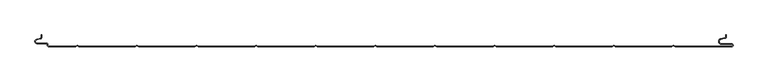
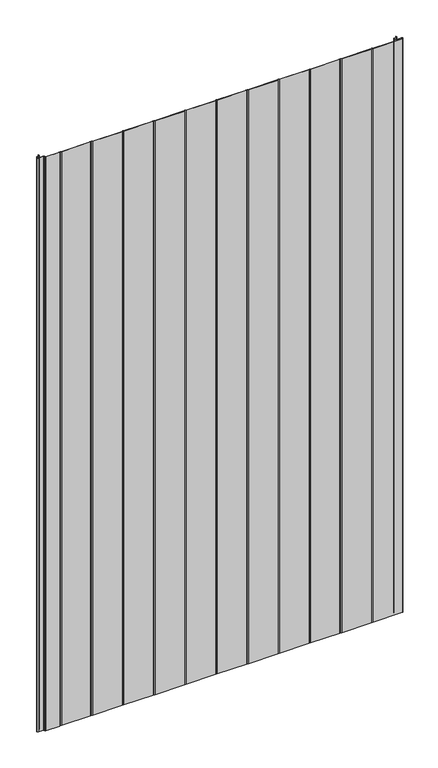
"""IFC4 building model written with IfcOpenShell, lengths in millimetres: plate geometry, PM1_Curtain-Panel_Perfil-Frigorífico : ACH_PM1_Panel-Acústico-Sectorización_120M."""

from ifc_helpers import new_model, si_unit, frame, origin, place, context, project, spatial, polyline, circle_curve, source, transform, mapped, element, save
from ifc_brep_helpers import plane_surface, cylinder_surface, revolved_surface, advanced_brep


def plate_86621088(model_context):
    return source(origin(), model_context, "Body", "AdvancedBrep", [
        advanced_brep(
        [(-575.0, -104.121443, 1945.7507136), (-576.5500978, -106.0701831, 1945.7507136), (-582.7098239, -107.492268, 1945.7507136), (-581.9, -114.6, 1945.7507136), (-566.4, -114.6, 1945.7507136), (-564.4, -116.6, 1945.7507136), (-564.4, -118.0, 1945.7507136), (-562.4, -120.0, 1945.7507136), (-517.0999995, -120.0, 1945.7507136), (-514.4, -118.4411545, 1945.7507136), (-511.7000005, -120.0, 1945.7507136), (-417.0999995, -120.0, 1945.7507136), (-414.4, -118.4411545, 1945.7507136), (-411.7000005, -120.0, 1945.7507136), (-317.0999995, -120.0, 1945.7507136), (-314.4, -118.4411545, 1945.7507136), (-311.7000005, -120.0, 1945.7507136), (-217.0999995, -120.0, 1945.7507136), (-214.4, -118.4411545, 1945.7507136), (-211.7000005, -120.0, 1945.7507136), (-117.0999995, -120.0, 1945.7507136), (-114.4, -118.4411545, 1945.7507136), (-111.7000005, -120.0, 1945.7507136), (-17.0999995, -120.0, 1945.7507136), (-14.4, -118.4411545, 1945.7507136), (-11.7000005, -120.0, 1945.7507136), (82.9000005, -120.0, 1945.7507136), (85.6, -118.4411545, 1945.7507136), (88.2999995, -120.0, 1945.7507136), (182.9000005, -120.0, 1945.7507136), (185.6, -118.4411545, 1945.7507136), (188.2999995, -120.0, 1945.7507136), (282.9000005, -120.0, 1945.7507136), (285.6, -118.4411545, 1945.7507136), (288.2999995, -120.0, 1945.7507136), (382.9000005, -120.0, 1945.7507136), (385.6, -118.4411545, 1945.7507136), (388.2999995, -120.0, 1945.7507136), (482.9000005, -120.0, 1945.7507136), (485.6, -118.4411545, 1945.7507136), (488.2999995, -120.0, 1945.7507136), (583.1, -120.0, 1945.7507136), (585.6, -117.5, 1945.7507136), (583.1, -115.0, 1945.7507136), (566.1, -115.0, 1945.7507136), (565.405407, -107.060769, 1945.7507136), (571.8514855, -105.9241509, 1945.7507136), (574.0, -103.3636508, 1945.7507136), (574.0, -100.0, 1945.7507136), (573.2, -100.0, 1945.7507136), (573.2, -103.3636508, 1945.7507136), (571.7125669, -105.1363047, 1945.7507136), (565.2664884, -106.2729228, 1945.7507136), (566.1, -115.8, 1945.7507136), (583.1, -115.8, 1945.7507136), (583.1, -119.2, 1945.7507136), (488.5143588, -119.2, 1945.7507136), (485.6, -117.517394, 1945.7507136), (482.6856412, -119.2, 1945.7507136), (388.5143588, -119.2, 1945.7507136), (385.6, -117.517394, 1945.7507136), (382.6856412, -119.2, 1945.7507136), (288.5143588, -119.2, 1945.7507136), (285.6, -117.517394, 1945.7507136), (282.6856412, -119.2, 1945.7507136), (188.5143588, -119.2, 1945.7507136), (185.6, -117.517394, 1945.7507136), (182.6856412, -119.2, 1945.7507136), (88.5143588, -119.2, 1945.7507136), (85.6, -117.517394, 1945.7507136), (82.6856412, -119.2, 1945.7507136), (-11.4856412, -119.2, 1945.7507136), (-14.4, -117.517394, 1945.7507136), (-17.3143588, -119.2, 1945.7507136), (-111.4856412, -119.2, 1945.7507136), (-114.4, -117.517394, 1945.7507136), (-117.3143588, -119.2, 1945.7507136), (-211.4856412, -119.2, 1945.7507136), (-214.4, -117.517394, 1945.7507136), (-217.3143588, -119.2, 1945.7507136), (-311.4856412, -119.2, 1945.7507136), (-314.4, -117.517394, 1945.7507136), (-317.3143588, -119.2, 1945.7507136), (-411.4856412, -119.2, 1945.7507136), (-414.4, -117.517394, 1945.7507136), (-417.3143588, -119.2, 1945.7507136), (-511.4856412, -119.2, 1945.7507136), (-514.4, -117.517394, 1945.7507136), (-517.3143588, -119.2, 1945.7507136), (-562.4, -119.2, 1945.7507136), (-563.6, -118.0, 1945.7507136), (-563.6, -116.6, 1945.7507136), (-566.4, -113.8, 1945.7507136), (-581.9, -113.8, 1945.7507136), (-582.529863, -108.2717638, 1945.7507136), (-576.370137, -106.849679, 1945.7507136), (-574.2, -104.121443, 1945.7507136), (-574.2, -100.0, 1945.7507136), (-575.0, -100.0, 1945.7507136), (-575.0, -104.121443, 0.0), (-575.0, -100.0, 0.0), (-574.2, -100.0, 0.0), (-574.2, -104.121443, 0.0), (-576.370137, -106.8496792, 0.0), (-582.529863, -108.271764, 0.0), (-581.9, -113.8, 0.0), (-566.4, -113.8, 0.0), (-563.6, -116.6, 0.0), (-563.6, -118.0, 0.0), (-562.4, -119.2, 0.0), (-517.3143588, -119.2, 0.0), (-514.4, -117.517394, 0.0), (-511.4856412, -119.2, 0.0), (-417.3143588, -119.2, 0.0), (-414.4, -117.517394, 0.0), (-411.4856412, -119.2, 0.0), (-317.3143588, -119.2, 0.0), (-314.4, -117.517394, 0.0), (-311.4856412, -119.2, 0.0), (-217.3143588, -119.2, 0.0), (-214.4, -117.517394, 0.0), (-211.4856412, -119.2, 0.0), (-117.3143588, -119.2, 0.0), (-114.4, -117.517394, 0.0), (-111.4856412, -119.2, 0.0), (-17.3143588, -119.2, 0.0), (-14.4, -117.517394, 0.0), (-11.4856412, -119.2, 0.0), (82.6856412, -119.2, 0.0), (85.6, -117.517394, 0.0), (88.5143588, -119.2, 0.0), (182.6856412, -119.2, 0.0), (185.6, -117.517394, 0.0), (188.5143588, -119.2, 0.0), (282.6856412, -119.2, 0.0), (285.6, -117.517394, 0.0), (288.5143588, -119.2, 0.0), (382.6856412, -119.2, 0.0), (385.6, -117.517394, 0.0), (388.5143588, -119.2, 0.0), (482.6856412, -119.2, 0.0), (485.6, -117.517394, 0.0), (488.5143588, -119.2, 0.0), (583.1, -119.2, 0.0), (583.1, -115.8, 0.0), (566.1, -115.8, 0.0), (565.2664884, -106.2729229, 0.0), (571.7125669, -105.1363047, 0.0), (573.2, -103.3636508, 0.0), (573.2, -100.0, 0.0), (574.0, -100.0, 0.0), (574.0, -103.3636508, 0.0), (571.8514855, -105.9241509, 0.0), (565.405407, -107.060769, 0.0), (566.1, -115.0, 0.0), (583.1, -115.0, 0.0), (585.6, -117.5, 0.0), (583.1, -120.0, 0.0), (488.2999995, -120.0, 0.0), (485.6, -118.4411545, 0.0), (482.9000005, -120.0, 0.0), (388.2999995, -120.0, 0.0), (385.6, -118.4411545, 0.0), (382.9000005, -120.0, 0.0), (288.2999995, -120.0, 0.0), (285.6, -118.4411545, 0.0), (282.9000005, -120.0, 0.0), (188.2999995, -120.0, 0.0), (185.6, -118.4411545, 0.0), (182.9000005, -120.0, 0.0), (88.2999995, -120.0, 0.0), (85.6, -118.4411545, 0.0), (82.9000005, -120.0, 0.0), (-11.7000005, -120.0, 0.0), (-14.4, -118.4411545, 0.0), (-17.0999995, -120.0, 0.0), (-111.7000005, -120.0, 0.0), (-114.4, -118.4411545, 0.0), (-117.0999995, -120.0, 0.0), (-211.7000005, -120.0, 0.0), (-214.4, -118.4411545, 0.0), (-217.0999995, -120.0, 0.0), (-311.7000005, -120.0, 0.0), (-314.4, -118.4411545, 0.0), (-317.0999995, -120.0, 0.0), (-411.7000005, -120.0, 0.0), (-414.4, -118.4411545, 0.0), (-417.0999995, -120.0, 0.0), (-511.7000005, -120.0, 0.0), (-514.4, -118.4411545, 0.0), (-517.0999995, -120.0, 0.0), (-562.4, -120.0, 0.0), (-564.4, -118.0, 0.0), (-564.4, -116.6, 0.0), (-566.4, -114.6, 0.0), (-581.9, -114.6, 0.0), (-582.7098239, -107.4922678, 0.0), (-576.5500979, -106.070183, 0.0)],
        [
            (0, 1, circle_curve(frame((-577.0, -104.121443, 1945.7507136), z_axis=(0.0, 0.0, -1.0), x_axis=(1.0, 0.0, 0.0)), 2.0)),
            (1, 2),
            (2, 3, circle_curve(frame((-581.9, -111.0, 1945.7507136), z_axis=(0.0, 0.0, 1.0), x_axis=(1.0, 0.0, 0.0)), 3.6)),
            (3, 4),
            (4, 5, circle_curve(frame((-566.4, -116.6, 1945.7507136), z_axis=(0.0, 0.0, -1.0), x_axis=(1.0, 0.0, 0.0)), 2.0)),
            (5, 6),
            (6, 7, circle_curve(frame((-562.4, -118.0, 1945.7507136), z_axis=(0.0, 0.0, 1.0), x_axis=(1.0, 0.0, 0.0)), 2.0)),
            (7, 8),
            (8, 9),
            (9, 10),
            (10, 11),
            (11, 12),
            (12, 13),
            (13, 14),
            (14, 15),
            (15, 16),
            (16, 17),
            (17, 18),
            (18, 19),
            (19, 20),
            (20, 21),
            (21, 22),
            (22, 23),
            (23, 24),
            (24, 25),
            (25, 26),
            (26, 27),
            (27, 28),
            (28, 29),
            (29, 30),
            (30, 31),
            (31, 32),
            (32, 33),
            (33, 34),
            (34, 35),
            (35, 36),
            (36, 37),
            (37, 38),
            (38, 39),
            (39, 40),
            (40, 41),
            (41, 42, circle_curve(frame((583.1, -117.5, 1945.7507136), z_axis=(0.0, 0.0, 1.0), x_axis=(1.0, 0.0, 0.0)), 2.5)),
            (42, 43, circle_curve(frame((583.1, -117.5, 1945.7507136), z_axis=(0.0, 0.0, 1.0), x_axis=(1.0, 0.0, 0.0)), 2.5)),
            (43, 44),
            (44, 45, circle_curve(frame((566.1, -111.0, 1945.7507136), z_axis=(0.0, 0.0, -1.0), x_axis=(1.0, 0.0, 0.0)), 4.0)),
            (45, 46),
            (46, 47, circle_curve(frame((571.4, -103.3636508, 1945.7507136), z_axis=(0.0, 0.0, 1.0), x_axis=(1.0, 0.0, 0.0)), 2.6)),
            (47, 48),
            (48, 49),
            (49, 50),
            (50, 51, circle_curve(frame((571.4, -103.3636508, 1945.7507136), z_axis=(0.0, 0.0, -1.0), x_axis=(1.0, 0.0, 0.0)), 1.8)),
            (51, 52),
            (52, 53, circle_curve(frame((566.1, -111.0, 1945.7507136), z_axis=(0.0, 0.0, 1.0), x_axis=(1.0, 0.0, 0.0)), 4.8)),
            (53, 54),
            (54, 55, circle_curve(frame((583.1, -117.5, 1945.7507136), z_axis=(0.0, 0.0, -1.0), x_axis=(1.0, 0.0, 0.0)), 1.7)),
            (55, 56),
            (56, 57),
            (57, 58),
            (58, 59),
            (59, 60),
            (60, 61),
            (61, 62),
            (62, 63),
            (63, 64),
            (64, 65),
            (65, 66),
            (66, 67),
            (67, 68),
            (68, 69),
            (69, 70),
            (70, 71),
            (71, 72),
            (72, 73),
            (73, 74),
            (74, 75),
            (75, 76),
            (76, 77),
            (77, 78),
            (78, 79),
            (79, 80),
            (80, 81),
            (81, 82),
            (82, 83),
            (83, 84),
            (84, 85),
            (85, 86),
            (86, 87),
            (87, 88),
            (88, 89),
            (89, 90, circle_curve(frame((-562.4, -118.0, 1945.7507136), z_axis=(0.0, 0.0, -1.0), x_axis=(1.0, 0.0, 0.0)), 1.2)),
            (90, 91),
            (91, 92, circle_curve(frame((-566.4, -116.6, 1945.7507136), z_axis=(0.0, 0.0, 1.0), x_axis=(1.0, 0.0, 0.0)), 2.8)),
            (92, 93),
            (93, 94, circle_curve(frame((-581.9, -111.0, 1945.7507136), z_axis=(0.0, 0.0, -1.0), x_axis=(1.0, 0.0, 0.0)), 2.8)),
            (94, 95),
            (95, 96, circle_curve(frame((-577.0, -104.121443, 1945.7507136), z_axis=(0.0, 0.0, 1.0), x_axis=(1.0, 0.0, 0.0)), 2.8)),
            (96, 97),
            (97, 98),
            (98, 0),
            (99, 100),
            (100, 101),
            (101, 102),
            (102, 103, circle_curve(frame((-577.0, -104.121443, 0.0), z_axis=(0.0, 0.0, -1.0), x_axis=(1.0, 0.0, 0.0)), 2.8)),
            (103, 104),
            (104, 105, circle_curve(frame((-581.9, -111.0, 0.0), z_axis=(0.0, 0.0, 1.0), x_axis=(1.0, 0.0, 0.0)), 2.8)),
            (105, 106),
            (106, 107, circle_curve(frame((-566.4, -116.6, 0.0), z_axis=(0.0, 0.0, -1.0), x_axis=(1.0, 0.0, 0.0)), 2.8)),
            (107, 108),
            (108, 109, circle_curve(frame((-562.4, -118.0, 0.0), z_axis=(0.0, 0.0, 1.0), x_axis=(1.0, 0.0, 0.0)), 1.2)),
            (109, 110),
            (110, 111),
            (111, 112),
            (112, 113),
            (113, 114),
            (114, 115),
            (115, 116),
            (116, 117),
            (117, 118),
            (118, 119),
            (119, 120),
            (120, 121),
            (121, 122),
            (122, 123),
            (123, 124),
            (124, 125),
            (125, 126),
            (126, 127),
            (127, 128),
            (128, 129),
            (129, 130),
            (130, 131),
            (131, 132),
            (132, 133),
            (133, 134),
            (134, 135),
            (135, 136),
            (136, 137),
            (137, 138),
            (138, 139),
            (139, 140),
            (140, 141),
            (141, 142),
            (142, 143),
            (143, 144, circle_curve(frame((583.1, -117.5, 0.0), z_axis=(0.0, 0.0, 1.0), x_axis=(1.0, 0.0, 0.0)), 1.7)),
            (144, 145),
            (145, 146, circle_curve(frame((566.1, -111.0, 0.0), z_axis=(0.0, 0.0, -1.0), x_axis=(1.0, 0.0, 0.0)), 4.8)),
            (146, 147),
            (147, 148, circle_curve(frame((571.4, -103.3636508, 0.0), z_axis=(0.0, 0.0, 1.0), x_axis=(1.0, 0.0, 0.0)), 1.8)),
            (148, 149),
            (149, 150),
            (150, 151),
            (151, 152, circle_curve(frame((571.4, -103.3636508, 0.0), z_axis=(0.0, 0.0, -1.0), x_axis=(1.0, 0.0, 0.0)), 2.6)),
            (152, 153),
            (153, 154, circle_curve(frame((566.1, -111.0, 0.0), z_axis=(0.0, 0.0, 1.0), x_axis=(1.0, 0.0, 0.0)), 4.0)),
            (154, 155),
            (155, 156, circle_curve(frame((583.1, -117.5, 0.0), z_axis=(0.0, 0.0, -1.0), x_axis=(1.0, 0.0, 0.0)), 2.5)),
            (156, 157, circle_curve(frame((583.1, -117.5, 0.0), z_axis=(0.0, 0.0, -1.0), x_axis=(1.0, 0.0, 0.0)), 2.5)),
            (157, 158),
            (158, 159),
            (159, 160),
            (160, 161),
            (161, 162),
            (162, 163),
            (163, 164),
            (164, 165),
            (165, 166),
            (166, 167),
            (167, 168),
            (168, 169),
            (169, 170),
            (170, 171),
            (171, 172),
            (172, 173),
            (173, 174),
            (174, 175),
            (175, 176),
            (176, 177),
            (177, 178),
            (178, 179),
            (179, 180),
            (180, 181),
            (181, 182),
            (182, 183),
            (183, 184),
            (184, 185),
            (185, 186),
            (186, 187),
            (187, 188),
            (188, 189),
            (189, 190),
            (190, 191),
            (191, 192, circle_curve(frame((-562.4, -118.0, 0.0), z_axis=(0.0, 0.0, -1.0), x_axis=(1.0, 0.0, 0.0)), 2.0)),
            (192, 193),
            (193, 194, circle_curve(frame((-566.4, -116.6, 0.0), z_axis=(0.0, 0.0, 1.0), x_axis=(1.0, 0.0, 0.0)), 2.0)),
            (194, 195),
            (195, 196, circle_curve(frame((-581.9, -111.0, 0.0), z_axis=(0.0, 0.0, -1.0), x_axis=(1.0, 0.0, 0.0)), 3.6)),
            (196, 197),
            (197, 99, circle_curve(frame((-577.0, -104.121443, 0.0), z_axis=(0.0, 0.0, 1.0), x_axis=(1.0, 0.0, 0.0)), 2.0)),
            (0, 99),
            (197, 1),
            (196, 2),
            (195, 3),
            (194, 4),
            (193, 5),
            (192, 6),
            (191, 7),
            (190, 8),
            (189, 9),
            (188, 10),
            (187, 11),
            (186, 12),
            (185, 13),
            (184, 14),
            (183, 15),
            (182, 16),
            (181, 17),
            (180, 18),
            (179, 19),
            (178, 20),
            (177, 21),
            (176, 22),
            (175, 23),
            (174, 24),
            (173, 25),
            (172, 26),
            (171, 27),
            (170, 28),
            (169, 29),
            (168, 30),
            (167, 31),
            (166, 32),
            (165, 33),
            (164, 34),
            (163, 35),
            (162, 36),
            (161, 37),
            (160, 38),
            (159, 39),
            (158, 40),
            (157, 41),
            (155, 43),
            (154, 44),
            (153, 45),
            (152, 46),
            (151, 47),
            (150, 48),
            (149, 49),
            (148, 50),
            (147, 51),
            (146, 52),
            (145, 53),
            (144, 54),
            (143, 55),
            (142, 56),
            (141, 57),
            (140, 58),
            (139, 59),
            (138, 60),
            (137, 61),
            (136, 62),
            (135, 63),
            (134, 64),
            (133, 65),
            (132, 66),
            (131, 67),
            (130, 68),
            (129, 69),
            (128, 70),
            (127, 71),
            (126, 72),
            (125, 73),
            (124, 74),
            (123, 75),
            (122, 76),
            (121, 77),
            (120, 78),
            (119, 79),
            (118, 80),
            (117, 81),
            (116, 82),
            (115, 83),
            (114, 84),
            (113, 85),
            (112, 86),
            (111, 87),
            (110, 88),
            (109, 89),
            (108, 90),
            (107, 91),
            (106, 92),
            (105, 93),
            (104, 94),
            (103, 95),
            (102, 96),
            (101, 97),
            (100, 98),
        ],
        [
            plane_surface(frame((-575.0, -120.0, 1945.7507136), z_axis=(0.0, 0.0, 1.0), x_axis=(0.0, 1.0, 0.0))),
            plane_surface(frame((-575.0, -120.0, 0.0), z_axis=(0.0, 0.0, -1.0), x_axis=(0.0, 1.0, 0.0))),
            revolved_surface(polyline([(-575.0, -104.121443, 0.0), (-575.0, -104.121443, 1945.7507136)]), (-577.0, -104.121443, 1945.7507136), (0.0, 0.0, -1.0)),
            plane_surface(frame((-576.5500979, -106.070183, 1945.7507136), z_axis=(-0.22495108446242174, 0.9743700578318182, 0.0), x_axis=(0.0, 0.0, -1.0))),
            cylinder_surface(frame((-581.9, -111.0, 1945.7507136), z_axis=(0.0, 0.0, 1.0), x_axis=(1.0, 0.0, 0.0)), 3.6),
            plane_surface(frame((-581.9, -114.6, 1945.7507136), z_axis=(0.0, -1.0, 0.0), x_axis=(0.0, 0.0, -1.0))),
            revolved_surface(polyline([(-564.4, -116.6, 0.0), (-564.4, -116.6, 1945.7507136)]), (-566.4, -116.6, 1945.7507136), (0.0, 0.0, -1.0)),
            plane_surface(frame((-564.4, -116.6, 1945.7507136), z_axis=(-1.0, 0.0, 0.0), x_axis=(0.0, 0.0, -1.0))),
            cylinder_surface(frame((-562.4, -118.0, 1945.7507136), z_axis=(0.0, 0.0, 1.0), x_axis=(1.0, 0.0, 0.0)), 2.0),
            plane_surface(frame((-562.4, -120.0, 1945.7507136), z_axis=(0.0, -1.0, 0.0), x_axis=(0.0, 0.0, -1.0))),
            plane_surface(frame((-517.0999995, -120.0, 1945.7507136), z_axis=(0.5000000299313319, -0.8660253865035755, 0.0), x_axis=(0.0, 0.0, -1.0))),
            plane_surface(frame((-514.4, -118.4411545, 1945.7507136), z_axis=(-0.5000000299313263, -0.8660253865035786, 0.0), x_axis=(0.0, 0.0, -1.0))),
            plane_surface(frame((-511.7000005, -120.0, 1945.7507136), z_axis=(0.0, -1.0, 0.0), x_axis=(0.0, 0.0, -1.0))),
            plane_surface(frame((-417.0999995, -120.0, 1945.7507136), z_axis=(0.5000000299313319, -0.8660253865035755, 0.0), x_axis=(0.0, 0.0, -1.0))),
            plane_surface(frame((-414.4, -118.4411545, 1945.7507136), z_axis=(-0.5000000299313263, -0.8660253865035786, 0.0), x_axis=(0.0, 0.0, -1.0))),
            plane_surface(frame((-411.7000005, -120.0, 1945.7507136), z_axis=(0.0, -1.0, 0.0), x_axis=(0.0, 0.0, -1.0))),
            plane_surface(frame((-317.0999995, -120.0, 1945.7507136), z_axis=(0.5000000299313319, -0.8660253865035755, 0.0), x_axis=(0.0, 0.0, -1.0))),
            plane_surface(frame((-314.4, -118.4411545, 1945.7507136), z_axis=(-0.5000000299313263, -0.8660253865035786, 0.0), x_axis=(0.0, 0.0, -1.0))),
            plane_surface(frame((-311.7000005, -120.0, 1945.7507136), z_axis=(0.0, -1.0, 0.0), x_axis=(0.0, 0.0, -1.0))),
            plane_surface(frame((-217.0999995, -120.0, 1945.7507136), z_axis=(0.5000000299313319, -0.8660253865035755, 0.0), x_axis=(0.0, 0.0, -1.0))),
            plane_surface(frame((-214.4, -118.4411545, 1945.7507136), z_axis=(-0.5000000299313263, -0.8660253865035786, 0.0), x_axis=(0.0, 0.0, -1.0))),
            plane_surface(frame((-211.7000005, -120.0, 1945.7507136), z_axis=(0.0, -1.0, 0.0), x_axis=(0.0, 0.0, -1.0))),
            plane_surface(frame((-117.0999995, -120.0, 1945.7507136), z_axis=(0.5000000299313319, -0.8660253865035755, 0.0), x_axis=(0.0, 0.0, -1.0))),
            plane_surface(frame((-114.4, -118.4411545, 1945.7507136), z_axis=(-0.5000000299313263, -0.8660253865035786, 0.0), x_axis=(0.0, 0.0, -1.0))),
            plane_surface(frame((-111.7000005, -120.0, 1945.7507136), z_axis=(0.0, -1.0, 0.0), x_axis=(0.0, 0.0, -1.0))),
            plane_surface(frame((-17.0999995, -120.0, 1945.7507136), z_axis=(0.5000000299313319, -0.8660253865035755, 0.0), x_axis=(0.0, 0.0, -1.0))),
            plane_surface(frame((-14.4, -118.4411545, 1945.7507136), z_axis=(-0.5000000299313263, -0.8660253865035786, 0.0), x_axis=(0.0, 0.0, -1.0))),
            plane_surface(frame((-11.7000005, -120.0, 1945.7507136), z_axis=(0.0, -1.0, 0.0), x_axis=(0.0, 0.0, -1.0))),
            plane_surface(frame((82.9000005, -120.0, 1945.7507136), z_axis=(0.5000000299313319, -0.8660253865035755, 0.0), x_axis=(0.0, 0.0, -1.0))),
            plane_surface(frame((85.6, -118.4411545, 1945.7507136), z_axis=(-0.5000000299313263, -0.8660253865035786, 0.0), x_axis=(0.0, 0.0, -1.0))),
            plane_surface(frame((88.2999995, -120.0, 1945.7507136), z_axis=(0.0, -1.0, 0.0), x_axis=(0.0, 0.0, -1.0))),
            plane_surface(frame((182.9000005, -120.0, 1945.7507136), z_axis=(0.5000000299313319, -0.8660253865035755, 0.0), x_axis=(0.0, 0.0, -1.0))),
            plane_surface(frame((185.6, -118.4411545, 1945.7507136), z_axis=(-0.5000000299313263, -0.8660253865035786, 0.0), x_axis=(0.0, 0.0, -1.0))),
            plane_surface(frame((188.2999995, -120.0, 1945.7507136), z_axis=(0.0, -1.0, 0.0), x_axis=(0.0, 0.0, -1.0))),
            plane_surface(frame((282.9000005, -120.0, 1945.7507136), z_axis=(0.5000000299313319, -0.8660253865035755, 0.0), x_axis=(0.0, 0.0, -1.0))),
            plane_surface(frame((285.6, -118.4411545, 1945.7507136), z_axis=(-0.5000000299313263, -0.8660253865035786, 0.0), x_axis=(0.0, 0.0, -1.0))),
            plane_surface(frame((288.2999995, -120.0, 1945.7507136), z_axis=(0.0, -1.0, 0.0), x_axis=(0.0, 0.0, -1.0))),
            plane_surface(frame((382.9000005, -120.0, 1945.7507136), z_axis=(0.5000000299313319, -0.8660253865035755, 0.0), x_axis=(0.0, 0.0, -1.0))),
            plane_surface(frame((385.6, -118.4411545, 1945.7507136), z_axis=(-0.5000000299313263, -0.8660253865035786, 0.0), x_axis=(0.0, 0.0, -1.0))),
            plane_surface(frame((388.2999995, -120.0, 1945.7507136), z_axis=(0.0, -1.0, 0.0), x_axis=(0.0, 0.0, -1.0))),
            plane_surface(frame((482.9000005, -120.0, 1945.7507136), z_axis=(0.5000000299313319, -0.8660253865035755, 0.0), x_axis=(0.0, 0.0, -1.0))),
            plane_surface(frame((485.6, -118.4411545, 1945.7507136), z_axis=(-0.5000000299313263, -0.8660253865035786, 0.0), x_axis=(0.0, 0.0, -1.0))),
            plane_surface(frame((535.6, -120.0, 1945.7507136), z_axis=(0.0, -1.0, 0.0), x_axis=(0.0, 0.0, -1.0))),
            cylinder_surface(frame((583.1, -117.5, 1945.7507136), z_axis=(0.0, 0.0, 1.0), x_axis=(1.0, 0.0, 0.0)), 2.5),
            plane_surface(frame((583.1, -115.0, 1945.7507136), z_axis=(0.0, 1.0, 0.0), x_axis=(0.0, 0.0, -1.0))),
            revolved_surface(polyline([(570.1, -111.0, 0.0), (570.1, -111.0, 1945.7507136)]), (566.1, -111.0, 1945.7507136), (0.0, 0.0, -1.0)),
            plane_surface(frame((565.405407, -107.060769, 1945.7507136), z_axis=(0.17364825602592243, -0.9848077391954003, 0.0), x_axis=(0.0, 0.0, -1.0))),
            cylinder_surface(frame((571.4, -103.3636508, 1945.7507136), z_axis=(0.0, 0.0, 1.0), x_axis=(1.0, 0.0, 0.0)), 2.6),
            plane_surface(frame((574.0, -103.3636508, 1945.7507136), z_axis=(1.0, 0.0, 0.0), x_axis=(0.0, 0.0, -1.0))),
            plane_surface(frame((574.0, -100.0, 1945.7507136), z_axis=(0.0, 1.0, 0.0), x_axis=(0.0, 0.0, -1.0))),
            plane_surface(frame((573.2, -100.0, 1945.7507136), z_axis=(-1.0, 0.0, 0.0), x_axis=(0.0, 0.0, -1.0))),
            revolved_surface(polyline([(573.1999999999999, -103.3636508, 0.0), (573.1999999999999, -103.3636508, 1945.7507136)]), (571.4, -103.3636508, 1945.7507136), (0.0, 0.0, -1.0)),
            plane_surface(frame((571.7125669, -105.1363047, 1945.7507136), z_axis=(-0.17364825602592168, 0.9848077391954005, 0.0), x_axis=(0.0, 0.0, -1.0))),
            cylinder_surface(frame((566.1, -111.0, 1945.7507136), z_axis=(0.0, 0.0, 1.0), x_axis=(1.0, 0.0, 0.0)), 4.8),
            plane_surface(frame((566.1, -115.8, 1945.7507136), z_axis=(0.0, -1.0, 0.0), x_axis=(0.0, 0.0, -1.0))),
            revolved_surface(polyline([(584.8000000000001, -117.5, 0.0), (584.8000000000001, -117.5, 1945.7507136)]), (583.1, -117.5, 1945.7507136), (0.0, 0.0, -1.0)),
            plane_surface(frame((535.6, -119.2, 1945.7507136), z_axis=(0.0, 1.0, 0.0), x_axis=(0.0, 0.0, -1.0))),
            plane_surface(frame((488.5143588, -119.2, 1945.7507136), z_axis=(0.5000000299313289, 0.8660253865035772, 0.0), x_axis=(0.0, 0.0, -1.0))),
            plane_surface(frame((485.6, -117.517394, 1945.7507136), z_axis=(-0.5000000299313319, 0.8660253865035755, 0.0), x_axis=(0.0, 0.0, -1.0))),
            plane_surface(frame((482.6856412, -119.2, 1945.7507136), z_axis=(0.0, 1.0, 0.0), x_axis=(0.0, 0.0, -1.0))),
            plane_surface(frame((388.5143588, -119.2, 1945.7507136), z_axis=(0.5000000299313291, 0.8660253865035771, 0.0), x_axis=(0.0, 0.0, -1.0))),
            plane_surface(frame((385.6, -117.517394, 1945.7507136), z_axis=(-0.500000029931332, 0.8660253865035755, 0.0), x_axis=(0.0, 0.0, -1.0))),
            plane_surface(frame((382.6856412, -119.2, 1945.7507136), z_axis=(0.0, 1.0, 0.0), x_axis=(0.0, 0.0, -1.0))),
            plane_surface(frame((288.5143588, -119.2, 1945.7507136), z_axis=(0.5000000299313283, 0.8660253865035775, 0.0), x_axis=(0.0, 0.0, -1.0))),
            plane_surface(frame((285.6, -117.517394, 1945.7507136), z_axis=(-0.5000000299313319, 0.8660253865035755, 0.0), x_axis=(0.0, 0.0, -1.0))),
            plane_surface(frame((282.6856412, -119.2, 1945.7507136), z_axis=(0.0, 1.0, 0.0), x_axis=(0.0, 0.0, -1.0))),
            plane_surface(frame((188.5143588, -119.2, 1945.7507136), z_axis=(0.5000000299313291, 0.8660253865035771, 0.0), x_axis=(0.0, 0.0, -1.0))),
            plane_surface(frame((185.6, -117.517394, 1945.7507136), z_axis=(-0.5000000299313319, 0.8660253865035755, 0.0), x_axis=(0.0, 0.0, -1.0))),
            plane_surface(frame((182.6856412, -119.2, 1945.7507136), z_axis=(0.0, 1.0, 0.0), x_axis=(0.0, 0.0, -1.0))),
            plane_surface(frame((88.5143588, -119.2, 1945.7507136), z_axis=(0.5000000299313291, 0.8660253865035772, 0.0), x_axis=(0.0, 0.0, -1.0))),
            plane_surface(frame((85.6, -117.517394, 1945.7507136), z_axis=(-0.5000000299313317, 0.8660253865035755, 0.0), x_axis=(0.0, 0.0, -1.0))),
            plane_surface(frame((82.6856412, -119.2, 1945.7507136), z_axis=(0.0, 1.0, 0.0), x_axis=(0.0, 0.0, -1.0))),
            plane_surface(frame((-11.4856412, -119.2, 1945.7507136), z_axis=(0.500000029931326, 0.8660253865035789, 0.0), x_axis=(0.0, 0.0, -1.0))),
            plane_surface(frame((-14.4, -117.517394, 1945.7507136), z_axis=(-0.500000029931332, 0.8660253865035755, 0.0), x_axis=(0.0, 0.0, -1.0))),
            plane_surface(frame((-17.3143588, -119.2, 1945.7507136), z_axis=(0.0, 1.0, 0.0), x_axis=(0.0, 0.0, -1.0))),
            plane_surface(frame((-111.4856412, -119.2, 1945.7507136), z_axis=(0.5000000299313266, 0.8660253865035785, 0.0), x_axis=(0.0, 0.0, -1.0))),
            plane_surface(frame((-114.4, -117.517394, 1945.7507136), z_axis=(-0.5000000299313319, 0.8660253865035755, 0.0), x_axis=(0.0, 0.0, -1.0))),
            plane_surface(frame((-117.3143588, -119.2, 1945.7507136), z_axis=(0.0, 1.0, 0.0), x_axis=(0.0, 0.0, -1.0))),
            plane_surface(frame((-211.4856412, -119.2, 1945.7507136), z_axis=(0.5000000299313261, 0.8660253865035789, 0.0), x_axis=(0.0, 0.0, -1.0))),
            plane_surface(frame((-214.4, -117.517394, 1945.7507136), z_axis=(-0.500000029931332, 0.8660253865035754, 0.0), x_axis=(0.0, 0.0, -1.0))),
            plane_surface(frame((-217.3143588, -119.2, 1945.7507136), z_axis=(0.0, 1.0, 0.0), x_axis=(0.0, 0.0, -1.0))),
            plane_surface(frame((-311.4856412, -119.2, 1945.7507136), z_axis=(0.5000000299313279, 0.8660253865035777, 0.0), x_axis=(0.0, 0.0, -1.0))),
            plane_surface(frame((-314.4, -117.517394, 1945.7507136), z_axis=(-0.5000000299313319, 0.8660253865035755, 0.0), x_axis=(0.0, 0.0, -1.0))),
            plane_surface(frame((-317.3143588, -119.2, 1945.7507136), z_axis=(0.0, 1.0, 0.0), x_axis=(0.0, 0.0, -1.0))),
            plane_surface(frame((-411.4856412, -119.2, 1945.7507136), z_axis=(0.5000000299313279, 0.8660253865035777, 0.0), x_axis=(0.0, 0.0, -1.0))),
            plane_surface(frame((-414.4, -117.517394, 1945.7507136), z_axis=(-0.5000000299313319, 0.8660253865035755, 0.0), x_axis=(0.0, 0.0, -1.0))),
            plane_surface(frame((-417.3143588, -119.2, 1945.7507136), z_axis=(0.0, 1.0, 0.0), x_axis=(0.0, 0.0, -1.0))),
            plane_surface(frame((-511.4856412, -119.2, 1945.7507136), z_axis=(0.5000000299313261, 0.8660253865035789, 0.0), x_axis=(0.0, 0.0, -1.0))),
            plane_surface(frame((-514.4, -117.517394, 1945.7507136), z_axis=(-0.5000000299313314, 0.8660253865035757, 0.0), x_axis=(0.0, 0.0, -1.0))),
            plane_surface(frame((-517.3143588, -119.2, 1945.7507136), z_axis=(0.0, 1.0, 0.0), x_axis=(0.0, 0.0, -1.0))),
            revolved_surface(polyline([(-561.1999999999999, -118.0, 0.0), (-561.1999999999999, -118.0, 1945.7507136)]), (-562.4, -118.0, 1945.7507136), (0.0, 0.0, -1.0)),
            plane_surface(frame((-563.6, -118.0, 1945.7507136), z_axis=(1.0, 0.0, 0.0), x_axis=(0.0, 0.0, -1.0))),
            cylinder_surface(frame((-566.4, -116.6, 1945.7507136), z_axis=(0.0, 0.0, 1.0), x_axis=(1.0, 0.0, 0.0)), 2.8),
            plane_surface(frame((-566.4, -113.8, 1945.7507136), z_axis=(0.0, 1.0, 0.0), x_axis=(0.0, 0.0, -1.0))),
            revolved_surface(polyline([(-579.1, -111.0, 0.0), (-579.1, -111.0, 1945.7507136)]), (-581.9, -111.0, 1945.7507136), (0.0, 0.0, -1.0)),
            plane_surface(frame((-582.529863, -108.271764, 1945.7507136), z_axis=(0.22495108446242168, -0.9743700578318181, 0.0), x_axis=(0.0, 0.0, -1.0))),
            cylinder_surface(frame((-577.0, -104.121443, 1945.7507136), z_axis=(0.0, 0.0, 1.0), x_axis=(1.0, 0.0, 0.0)), 2.8),
            plane_surface(frame((-574.2, -104.121443, 1945.7507136), z_axis=(1.0, 0.0, 0.0), x_axis=(0.0, 0.0, -1.0))),
            plane_surface(frame((-574.2, -100.0, 1945.7507136), z_axis=(0.0, 1.0, 0.0), x_axis=(0.0, 0.0, -1.0))),
            plane_surface(frame((-575.0, -100.0, 1945.7507136), z_axis=(-1.0, 0.0, 0.0), x_axis=(0.0, 0.0, -1.0))),
        ],
        [
            (0, [[1, 2, 3, 4, 5, 6, 7, 8, 9, 10, 11, 12, 13, 14, 15, 16, 17, 18, 19, 20, 21, 22, 23, 24, 25, 26, 27, 28, 29, 30, 31, 32, 33, 34, 35, 36, 37, 38, 39, 40, 41, 42, 43, 44, 45, 46, 47, 48, 49, 50, 51, 52, 53, 54, 55, 56, 57, 58, 59, 60, 61, 62, 63, 64, 65, 66, 67, 68, 69, 70, 71, 72, 73, 74, 75, 76, 77, 78, 79, 80, 81, 82, 83, 84, 85, 86, 87, 88, 89, 90, 91, 92, 93, 94, 95, 96, 97, 98, 99]]),
            (1, [[100, 101, 102, 103, 104, 105, 106, 107, 108, 109, 110, 111, 112, 113, 114, 115, 116, 117, 118, 119, 120, 121, 122, 123, 124, 125, 126, 127, 128, 129, 130, 131, 132, 133, 134, 135, 136, 137, 138, 139, 140, 141, 142, 143, 144, 145, 146, 147, 148, 149, 150, 151, 152, 153, 154, 155, 156, 157, 158, 159, 160, 161, 162, 163, 164, 165, 166, 167, 168, 169, 170, 171, 172, 173, 174, 175, 176, 177, 178, 179, 180, 181, 182, 183, 184, 185, 186, 187, 188, 189, 190, 191, 192, 193, 194, 195, 196, 197, 198]]),
            (2, [[-1, 199, -198, 200]]),
            (3, [[-2, -200, -197, 201]]),
            (4, [[-3, -201, -196, 202]]),
            (5, [[-4, -202, -195, 203]]),
            (6, [[-5, -203, -194, 204]]),
            (7, [[-6, -204, -193, 205]]),
            (8, [[-7, -205, -192, 206]]),
            (9, [[-8, -206, -191, 207]]),
            (10, [[-9, -207, -190, 208]]),
            (11, [[-10, -208, -189, 209]]),
            (12, [[-11, -209, -188, 210]]),
            (13, [[-12, -210, -187, 211]]),
            (14, [[-13, -211, -186, 212]]),
            (15, [[-14, -212, -185, 213]]),
            (16, [[-15, -213, -184, 214]]),
            (17, [[-16, -214, -183, 215]]),
            (18, [[-17, -215, -182, 216]]),
            (19, [[-18, -216, -181, 217]]),
            (20, [[-19, -217, -180, 218]]),
            (21, [[-20, -218, -179, 219]]),
            (22, [[-21, -219, -178, 220]]),
            (23, [[-22, -220, -177, 221]]),
            (24, [[-23, -221, -176, 222]]),
            (25, [[-24, -222, -175, 223]]),
            (26, [[-25, -223, -174, 224]]),
            (27, [[-26, -224, -173, 225]]),
            (28, [[-27, -225, -172, 226]]),
            (29, [[-28, -226, -171, 227]]),
            (30, [[-29, -227, -170, 228]]),
            (31, [[-30, -228, -169, 229]]),
            (32, [[-31, -229, -168, 230]]),
            (33, [[-32, -230, -167, 231]]),
            (34, [[-33, -231, -166, 232]]),
            (35, [[-34, -232, -165, 233]]),
            (36, [[-35, -233, -164, 234]]),
            (37, [[-36, -234, -163, 235]]),
            (38, [[-37, -235, -162, 236]]),
            (39, [[-38, -236, -161, 237]]),
            (40, [[-39, -237, -160, 238]]),
            (41, [[-40, -238, -159, 239]]),
            (42, [[-41, -239, -158, 240]]),
            (43, [[-240, -157, -156, 241, -43, -42]]),
            (44, [[-44, -241, -155, 242]]),
            (45, [[-45, -242, -154, 243]]),
            (46, [[-46, -243, -153, 244]]),
            (47, [[-47, -244, -152, 245]]),
            (48, [[-48, -245, -151, 246]]),
            (49, [[-49, -246, -150, 247]]),
            (50, [[-50, -247, -149, 248]]),
            (51, [[-51, -248, -148, 249]]),
            (52, [[-52, -249, -147, 250]]),
            (53, [[-53, -250, -146, 251]]),
            (54, [[-54, -251, -145, 252]]),
            (55, [[-55, -252, -144, 253]]),
            (56, [[-56, -253, -143, 254]]),
            (57, [[-57, -254, -142, 255]]),
            (58, [[-58, -255, -141, 256]]),
            (59, [[-59, -256, -140, 257]]),
            (60, [[-60, -257, -139, 258]]),
            (61, [[-61, -258, -138, 259]]),
            (62, [[-62, -259, -137, 260]]),
            (63, [[-63, -260, -136, 261]]),
            (64, [[-64, -261, -135, 262]]),
            (65, [[-65, -262, -134, 263]]),
            (66, [[-66, -263, -133, 264]]),
            (67, [[-67, -264, -132, 265]]),
            (68, [[-68, -265, -131, 266]]),
            (69, [[-69, -266, -130, 267]]),
            (70, [[-70, -267, -129, 268]]),
            (71, [[-71, -268, -128, 269]]),
            (72, [[-72, -269, -127, 270]]),
            (73, [[-73, -270, -126, 271]]),
            (74, [[-74, -271, -125, 272]]),
            (75, [[-75, -272, -124, 273]]),
            (76, [[-76, -273, -123, 274]]),
            (77, [[-77, -274, -122, 275]]),
            (78, [[-78, -275, -121, 276]]),
            (79, [[-79, -276, -120, 277]]),
            (80, [[-80, -277, -119, 278]]),
            (81, [[-81, -278, -118, 279]]),
            (82, [[-82, -279, -117, 280]]),
            (83, [[-83, -280, -116, 281]]),
            (84, [[-84, -281, -115, 282]]),
            (85, [[-85, -282, -114, 283]]),
            (86, [[-86, -283, -113, 284]]),
            (87, [[-87, -284, -112, 285]]),
            (88, [[-88, -285, -111, 286]]),
            (89, [[-89, -286, -110, 287]]),
            (90, [[-90, -287, -109, 288]]),
            (91, [[-91, -288, -108, 289]]),
            (92, [[-92, -289, -107, 290]]),
            (93, [[-93, -290, -106, 291]]),
            (94, [[-94, -291, -105, 292]]),
            (95, [[-95, -292, -104, 293]]),
            (96, [[-96, -293, -103, 294]]),
            (97, [[-97, -294, -102, 295]]),
            (98, [[-98, -295, -101, 296]]),
            (99, [[-99, -296, -100, -199]]),
        ],
    ),
    ])


if __name__ == "__main__":
    model = new_model("IFC4")
    model_context = context("Model", 3, world=origin())
    ifc_project = project(units=[si_unit("LENGTHUNIT", "METRE", prefix="MILLI")], contexts=[model_context])
    site = spatial("IfcSite", under=ifc_project)
    building = spatial("IfcBuilding", under=site)
    placement = place(None, origin())
    plate_shape = plate_86621088(model_context)
    element("IfcPlate", 1, ObjectType="PM1_Curtain-Panel_Perfil-Frigorífico : ACH_PM1_Panel-Acústico-Sectorización_120M", at=placement, inside=building, context=model_context, shape_type="MappedRepresentation", body=[
        mapped(plate_shape, transform((0.0, 0.0, 0.0), x_axis=(1.0, 0.0, 0.0), y_axis=(0.0, 1.0, 0.0), z_axis=(0.0, 0.0, 1.0))),
    ])
    save(model, "model.ifc")
